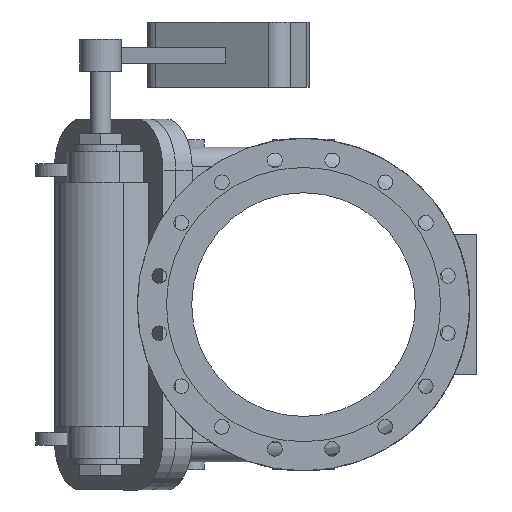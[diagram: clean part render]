
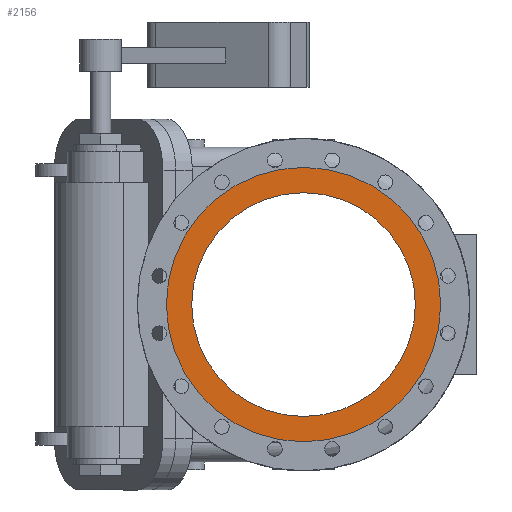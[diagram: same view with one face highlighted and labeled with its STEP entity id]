
A CAD part, left-side view. The second image highlights one B-rep face of the part: STEP entity #2156.
In plain terms, the highlighted planar face has unit normal (-1, 0, 0).
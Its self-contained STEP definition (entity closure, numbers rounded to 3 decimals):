
#2156 = ADVANCED_FACE ( 'NONE', ( #16999, #17010 ), #28920, .F. ) ;
#5707 = ORIENTED_EDGE ( 'NONE', *, *, #18575, .T. ) ;
#5715 = ORIENTED_EDGE ( 'NONE', *, *, #18569, .F. ) ;
#16365 = EDGE_LOOP ( 'NONE', ( #5707 ) ) ;
#16432 = EDGE_LOOP ( 'NONE', ( #5715 ) ) ;
#16999 = FACE_OUTER_BOUND ( 'NONE', #16365, .T. ) ;
#17010 = FACE_BOUND ( 'NONE', #16432, .T. ) ;
#18569 = EDGE_CURVE ( 'NONE', #27171, #27171, #24824, .T. ) ;
#18575 = EDGE_CURVE ( 'NONE', #27175, #27175, #24837, .T. ) ;
#18894 = AXIS2_PLACEMENT_3D ( 'NONE', #28919, #28925, #28926 ) ;
#23840 = AXIS2_PLACEMENT_3D ( 'NONE', #25767, #25768, #25769 ) ;
#23850 = AXIS2_PLACEMENT_3D ( 'NONE', #25785, #25786, #25787 ) ;
#24824 = CIRCLE ( 'NONE', #23840, 175. ) ;
#24837 = CIRCLE ( 'NONE', #23850, 214.5 ) ;
#25767 = CARTESIAN_POINT ( 'NONE',  ( -800., 0., 0. ) ) ;
#25768 = DIRECTION ( 'NONE',  ( -1., 0., 0. ) ) ;
#25769 = DIRECTION ( 'NONE',  ( 0., 0., 1. ) ) ;
#25785 = CARTESIAN_POINT ( 'NONE',  ( -800., 0., 0. ) ) ;
#25786 = DIRECTION ( 'NONE',  ( -1., 0., 0. ) ) ;
#25787 = DIRECTION ( 'NONE',  ( 0., 0., 1. ) ) ;
#27171 = VERTEX_POINT ( 'NONE', #27508 ) ;
#27175 = VERTEX_POINT ( 'NONE', #27512 ) ;
#27508 = CARTESIAN_POINT ( 'NONE',  ( -800., 0., 175. ) ) ;
#27512 = CARTESIAN_POINT ( 'NONE',  ( -800., 0., 214.5 ) ) ;
#28919 = CARTESIAN_POINT ( 'NONE',  ( -800., 0., 0. ) ) ;
#28920 = PLANE ( 'NONE',  #18894 ) ;
#28925 = DIRECTION ( 'NONE',  ( 1., 0., 0. ) ) ;
#28926 = DIRECTION ( 'NONE',  ( 0., 0., -1. ) ) ;
